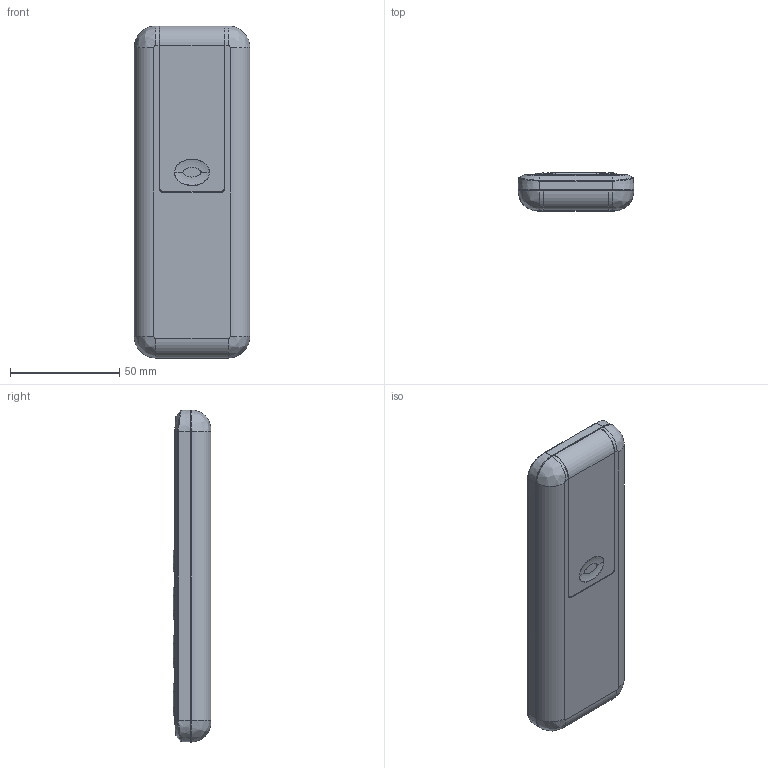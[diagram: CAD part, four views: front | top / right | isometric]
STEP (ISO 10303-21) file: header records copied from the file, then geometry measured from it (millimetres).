
FILE_DESCRIPTION((''),'2;1');
FILE_NAME('TXE_ASM','2019-07-24T',('USER'),(''),'PRO/ENGINEER BY PARAMETRIC TECHNOLOGY CORPORATION, 2008090','PRO/ENGINEER BY PARAMETRIC TECHNOLOGY CORPORATION, 2008090','');
FILE_SCHEMA(('CONFIG_CONTROL_DESIGN'));
Length unit declared in the file: millimetre
Products named in the file (1): TXE_ASM
Bounding box: 53 x 17.34 x 152 mm (x, y, z)
Surface area: 60588.6 mm2 (no closed solid volume)
Topology: 0 solids, 3 shells, 1661 faces, 4621 edges, 3000 vertices
Faces by surface type: plane 910, cylinder 408, torus 132, cone 90, extrusion 66, bspline 49, sphere 6
Entity records: 56996 total; most frequent: CARTESIAN_POINT 14239, ORIENTED_EDGE 9242, DIRECTION 8564, EDGE_CURVE 4621, VECTOR 3066, LINE 3000, VERTEX_POINT 3000, AXIS2_PLACEMENT_3D 2749
